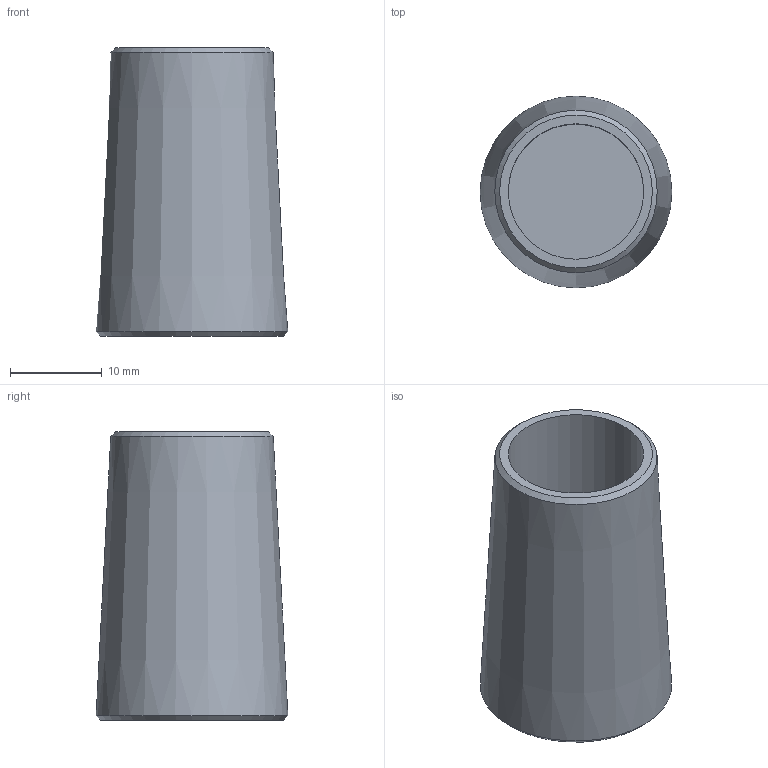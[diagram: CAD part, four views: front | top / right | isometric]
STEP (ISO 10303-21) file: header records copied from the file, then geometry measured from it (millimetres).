
FILE_DESCRIPTION(/* description */ (''),/* implementation_level */ '2;1');
FILE_NAME(/* name */ 'C:\Vault_WS\Designs\SB\01-PX\Verzinkt\ZSS\520 - Kontermutter\520-014-KMU.stp',/* time_stamp */ '2020-06-18T12:22:51+02:00',/* author */ ('schwarz'),/* organization */ (''),/* preprocessor_version */ 'ST-DEVELOPER v16.1',/* originating_system */ 'Autodesk Inventor 2016',/* authorisation */ '');
FILE_SCHEMA (('AUTOMOTIVE_DESIGN { 1 0 10303 214 3 1 1 }'));
Length unit declared in the file: millimetre
Products named in the file (1): Kontermutter 520 014 Kunde
Bounding box: 20.95 x 20.95 x 31.5 mm (x, y, z)
Volume: 5055.2 mm3; surface area: 3612.5 mm2
Topology: 1 solids, 1 shells, 7 faces, 10 edges, 6 vertices
Faces by surface type: cone 3, plane 3, cylinder 1
Full cylindrical faces by diameter (mm): 14.8 x1
Entity records: 158 total; most frequent: DIRECTION 28, CARTESIAN_POINT 20, AXIS2_PLACEMENT_3D 14, EDGE_LOOP 12, ORIENTED_EDGE 12, FACE_OUTER_BOUND 7, ADVANCED_FACE 7, CIRCLE 6
